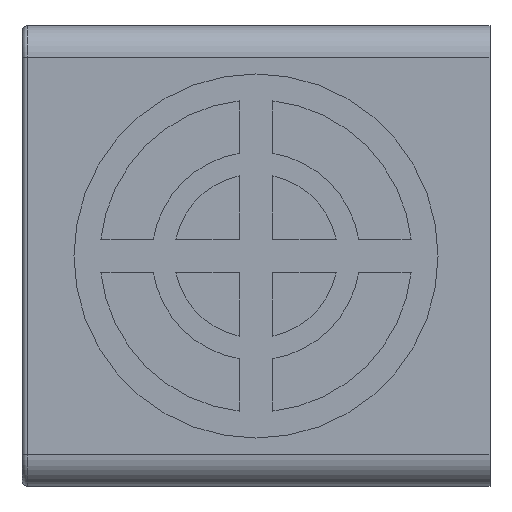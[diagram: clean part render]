
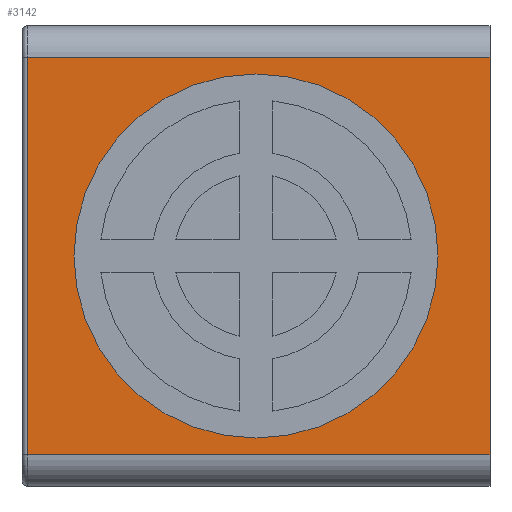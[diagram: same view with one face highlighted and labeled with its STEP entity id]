
A CAD part, left-side view. The second image highlights one B-rep face of the part: STEP entity #3142.
In plain terms, the highlighted planar face has unit normal (-1, 0, 0).
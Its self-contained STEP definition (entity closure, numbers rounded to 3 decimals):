
#139=LINE('',#4976,#386);
#141=LINE('',#4987,#388);
#142=LINE('',#4999,#389);
#143=LINE('',#5000,#390);
#386=VECTOR('',#4021,17.8);
#388=VECTOR('',#4033,15.3);
#389=VECTOR('',#4054,15.3);
#390=VECTOR('',#4055,17.8);
#559=FACE_BOUND('',#932,.T.);
#735=FACE_OUTER_BOUND('',#931,.T.);
#931=EDGE_LOOP('',(#2272,#2273,#2274,#2275));
#932=EDGE_LOOP('',(#2276));
#1122=CIRCLE('',#3392,7.);
#1351=VERTEX_POINT('',#4966);
#1353=VERTEX_POINT('',#4970);
#1355=VERTEX_POINT('',#4974);
#1359=VERTEX_POINT('',#4986);
#1360=VERTEX_POINT('',#4998);
#1686=EDGE_CURVE('',#1351,#1351,#1122,.T.);
#1690=EDGE_CURVE('',#1353,#1355,#139,.T.);
#1695=EDGE_CURVE('',#1353,#1359,#141,.T.);
#1697=EDGE_CURVE('',#1355,#1360,#142,.T.);
#1698=EDGE_CURVE('',#1359,#1360,#143,.T.);
#2272=ORIENTED_EDGE('',*,*,#1695,.F.);
#2273=ORIENTED_EDGE('',*,*,#1690,.T.);
#2274=ORIENTED_EDGE('',*,*,#1697,.T.);
#2275=ORIENTED_EDGE('',*,*,#1698,.F.);
#2276=ORIENTED_EDGE('',*,*,#1686,.F.);
#2834=PLANE('',#3410);
#3142=ADVANCED_FACE('',(#735,#559),#2834,.T.);
#3392=AXIS2_PLACEMENT_3D('',#4967,#4012,#4013);
#3410=AXIS2_PLACEMENT_3D('',#4997,#4052,#4053);
#4012=DIRECTION('center_axis',(-1.,0.,0.));
#4013=DIRECTION('ref_axis',(0.,-1.,0.));
#4021=DIRECTION('',(0.,-1.,0.));
#4033=DIRECTION('',(0.,0.,1.));
#4052=DIRECTION('center_axis',(-1.,0.,0.));
#4053=DIRECTION('ref_axis',(0.,0.,1.));
#4054=DIRECTION('',(0.,0.,1.));
#4055=DIRECTION('',(0.,-1.,0.));
#4966=CARTESIAN_POINT('',(-18.,2.,0.));
#4967=CARTESIAN_POINT('Origin',(-18.,9.,0.));
#4970=CARTESIAN_POINT('',(-18.,17.8,-7.65));
#4974=CARTESIAN_POINT('',(-18.,0.,-7.65));
#4976=CARTESIAN_POINT('',(-18.,17.8,-7.65));
#4986=CARTESIAN_POINT('',(-18.,17.8,7.65));
#4987=CARTESIAN_POINT('',(-18.,17.8,-7.65));
#4997=CARTESIAN_POINT('Origin',(-18.,0.,-8.85));
#4998=CARTESIAN_POINT('',(-18.,0.,7.65));
#4999=CARTESIAN_POINT('',(-18.,0.,-7.65));
#5000=CARTESIAN_POINT('',(-18.,17.8,7.65));
